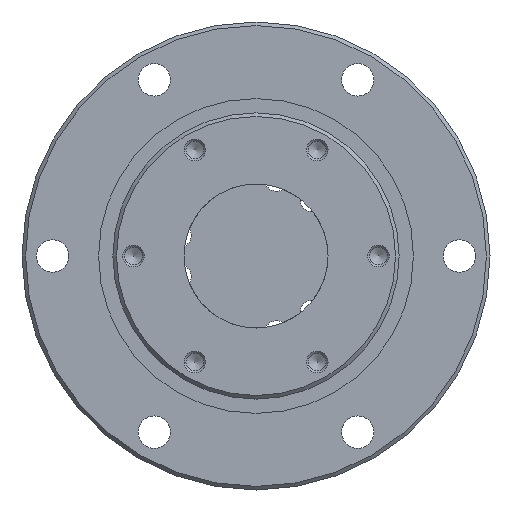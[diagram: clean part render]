
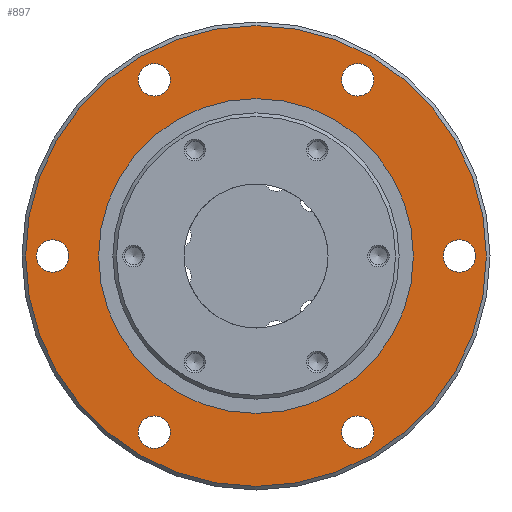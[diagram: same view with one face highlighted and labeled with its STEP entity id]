
A CAD part, left-side view. The second image highlights one B-rep face of the part: STEP entity #897.
In plain terms, the highlighted planar face has unit normal (-1, 0, 0).
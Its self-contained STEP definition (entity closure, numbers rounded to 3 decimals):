
#65=PLANE('',#1029);
#186=ORIENTED_EDGE('',*,*,#340,.F.);
#187=ORIENTED_EDGE('',*,*,#341,.F.);
#188=ORIENTED_EDGE('',*,*,#342,.F.);
#189=ORIENTED_EDGE('',*,*,#343,.F.);
#190=ORIENTED_EDGE('',*,*,#344,.F.);
#191=ORIENTED_EDGE('',*,*,#345,.F.);
#192=ORIENTED_EDGE('',*,*,#346,.F.);
#193=ORIENTED_EDGE('',*,*,#339,.T.);
#339=EDGE_CURVE('',#424,#424,#515,.T.);
#340=EDGE_CURVE('',#425,#425,#516,.T.);
#341=EDGE_CURVE('',#426,#426,#517,.F.);
#342=EDGE_CURVE('',#427,#427,#518,.F.);
#343=EDGE_CURVE('',#428,#428,#519,.F.);
#344=EDGE_CURVE('',#429,#429,#520,.F.);
#345=EDGE_CURVE('',#430,#430,#521,.F.);
#346=EDGE_CURVE('',#431,#431,#522,.F.);
#424=VERTEX_POINT('',#1562);
#425=VERTEX_POINT('',#1565);
#426=VERTEX_POINT('',#1567);
#427=VERTEX_POINT('',#1569);
#428=VERTEX_POINT('',#1571);
#429=VERTEX_POINT('',#1573);
#430=VERTEX_POINT('',#1575);
#431=VERTEX_POINT('',#1577);
#515=CIRCLE('',#1028,43.725);
#516=CIRCLE('',#1030,64.);
#517=CIRCLE('',#1031,4.5);
#518=CIRCLE('',#1032,4.5);
#519=CIRCLE('',#1033,4.5);
#520=CIRCLE('',#1034,4.5);
#521=CIRCLE('',#1035,4.5);
#522=CIRCLE('',#1036,4.5);
#595=EDGE_LOOP('',(#186));
#596=EDGE_LOOP('',(#187));
#597=EDGE_LOOP('',(#188));
#598=EDGE_LOOP('',(#189));
#599=EDGE_LOOP('',(#190));
#600=EDGE_LOOP('',(#191));
#601=EDGE_LOOP('',(#192));
#602=EDGE_LOOP('',(#193));
#731=FACE_BOUND('',#595,.T.);
#732=FACE_BOUND('',#596,.T.);
#733=FACE_BOUND('',#597,.T.);
#734=FACE_BOUND('',#598,.T.);
#735=FACE_BOUND('',#599,.T.);
#736=FACE_BOUND('',#600,.T.);
#737=FACE_BOUND('',#601,.T.);
#738=FACE_BOUND('',#602,.T.);
#897=ADVANCED_FACE('',(#731,#732,#733,#734,#735,#736,#737,#738),#65,.F.);
#1028=AXIS2_PLACEMENT_3D('',#1561,#1254,#1255);
#1029=AXIS2_PLACEMENT_3D('',#1563,#1256,#1257);
#1030=AXIS2_PLACEMENT_3D('',#1564,#1258,#1259);
#1031=AXIS2_PLACEMENT_3D('',#1566,#1260,#1261);
#1032=AXIS2_PLACEMENT_3D('',#1568,#1262,#1263);
#1033=AXIS2_PLACEMENT_3D('',#1570,#1264,#1265);
#1034=AXIS2_PLACEMENT_3D('',#1572,#1266,#1267);
#1035=AXIS2_PLACEMENT_3D('',#1574,#1268,#1269);
#1036=AXIS2_PLACEMENT_3D('',#1576,#1270,#1271);
#1254=DIRECTION('',(1.,0.,0.));
#1255=DIRECTION('',(0.,0.,-1.));
#1256=DIRECTION('',(1.,0.,0.));
#1257=DIRECTION('',(0.,0.,-1.));
#1258=DIRECTION('',(1.,0.,0.));
#1259=DIRECTION('',(0.,0.,-1.));
#1260=DIRECTION('',(1.,0.,0.));
#1261=DIRECTION('',(0.,0.,-1.));
#1262=DIRECTION('',(1.,0.,0.));
#1263=DIRECTION('',(0.,0.,-1.));
#1264=DIRECTION('',(1.,0.,0.));
#1265=DIRECTION('',(0.,0.,-1.));
#1266=DIRECTION('',(1.,0.,0.));
#1267=DIRECTION('',(0.,0.,-1.));
#1268=DIRECTION('',(1.,0.,0.));
#1269=DIRECTION('',(0.,0.,-1.));
#1270=DIRECTION('',(1.,0.,0.));
#1271=DIRECTION('',(0.,0.,-1.));
#1561=CARTESIAN_POINT('',(23.,0.,0.));
#1562=CARTESIAN_POINT('',(23.,0.,-43.725));
#1563=CARTESIAN_POINT('',(23.,43.725,0.));
#1564=CARTESIAN_POINT('',(23.,0.,0.));
#1565=CARTESIAN_POINT('',(23.,0.,-64.));
#1566=CARTESIAN_POINT('',(23.,56.5,0.));
#1567=CARTESIAN_POINT('',(23.,56.5,-4.5));
#1568=CARTESIAN_POINT('',(23.,28.25,-48.93));
#1569=CARTESIAN_POINT('',(23.,28.25,-53.43));
#1570=CARTESIAN_POINT('',(23.,-28.25,-48.93));
#1571=CARTESIAN_POINT('',(23.,-28.25,-53.43));
#1572=CARTESIAN_POINT('',(23.,-56.5,0.));
#1573=CARTESIAN_POINT('',(23.,-56.5,-4.5));
#1574=CARTESIAN_POINT('',(23.,-28.25,48.93));
#1575=CARTESIAN_POINT('',(23.,-28.25,44.43));
#1576=CARTESIAN_POINT('',(23.,28.25,48.93));
#1577=CARTESIAN_POINT('',(23.,28.25,44.43));
